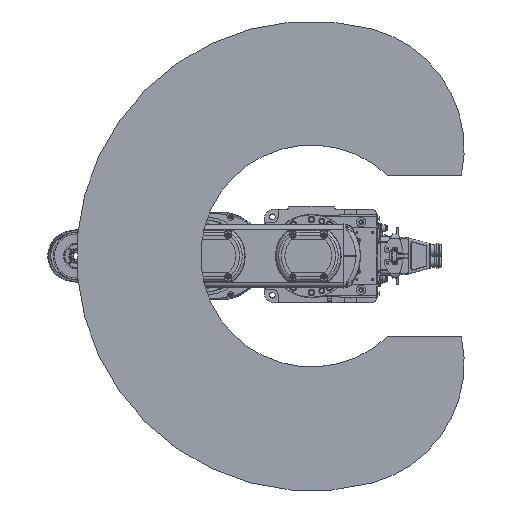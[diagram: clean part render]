
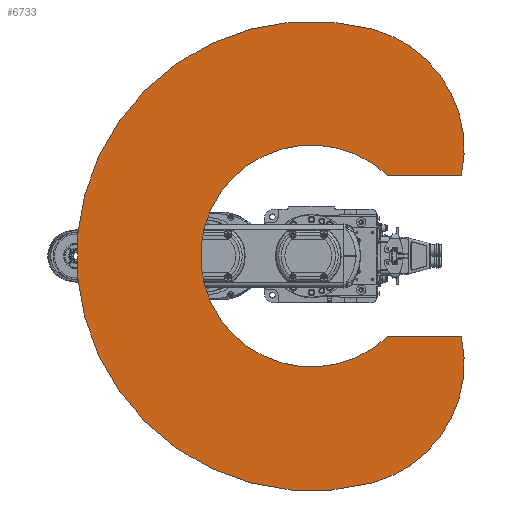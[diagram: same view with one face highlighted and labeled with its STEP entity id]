
A CAD part, front view. The second image highlights one B-rep face of the part: STEP entity #6733.
In plain terms, the highlighted planar face has unit normal (0, -1, 0).
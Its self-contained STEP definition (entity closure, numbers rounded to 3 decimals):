
#6733 = ADVANCED_FACE( '', ( #15720 ), #15721, .F. );
#15720 = FACE_OUTER_BOUND( '', #27588, .T. );
#15721 = PLANE( '', #27589 );
#27588 = EDGE_LOOP( '', ( #46963, #46964, #46965, #46966, #46967, #46968 ) );
#27589 = AXIS2_PLACEMENT_3D( '', #46969, #46970, #46971 );
#46963 = ORIENTED_EDGE( '', *, *, #67489, .T. );
#46964 = ORIENTED_EDGE( '', *, *, #67490, .F. );
#46965 = ORIENTED_EDGE( '', *, *, #63581, .F. );
#46966 = ORIENTED_EDGE( '', *, *, #65363, .F. );
#46967 = ORIENTED_EDGE( '', *, *, #67491, .T. );
#46968 = ORIENTED_EDGE( '', *, *, #67492, .F. );
#46969 = CARTESIAN_POINT( '', ( 102.614, 0., 27.495 ) );
#46970 = DIRECTION( '', ( 0., 1., 0. ) );
#46971 = DIRECTION( '', ( 0., 0., 1. ) );
#63581 = EDGE_CURVE( '', #75745, #75746, #75747, .T. );
#65363 = EDGE_CURVE( '', #78581, #75745, #78583, .T. );
#67489 = EDGE_CURVE( '', #81698, #81699, #81700, .T. );
#67490 = EDGE_CURVE( '', #75746, #81699, #81701, .T. );
#67491 = EDGE_CURVE( '', #78581, #81702, #81703, .T. );
#67492 = EDGE_CURVE( '', #81698, #81702, #81704, .F. );
#75745 = VERTEX_POINT( '', #94199 );
#75746 = VERTEX_POINT( '', #94200 );
#75747 = CIRCLE( '', #94201, 450. );
#78581 = VERTEX_POINT( '', #98831 );
#78583 = CIRCLE( '', #98834, 237.533 );
#81698 = VERTEX_POINT( '', #104490 );
#81699 = VERTEX_POINT( '', #104491 );
#81700 = LINE( '', #104492, #104493 );
#81701 = CIRCLE( '', #104494, 237.533 );
#81702 = VERTEX_POINT( '', #104495 );
#81703 = LINE( '', #104496, #104497 );
#81704 = CIRCLE( '', #104498, 212.47 );
#94199 = CARTESIAN_POINT( '', ( 434.667, 0., 116.469 ) );
#94200 = CARTESIAN_POINT( '', ( -434.667, 0., 116.469 ) );
#94201 = AXIS2_PLACEMENT_3D( '', #114670, #114671, #114672 );
#98831 = CARTESIAN_POINT( '', ( 155., 0., 287.152 ) );
#98834 = AXIS2_PLACEMENT_3D( '', #116968, #116969, #116970 );
#104490 = CARTESIAN_POINT( '', ( -155., 0., 145.322 ) );
#104491 = CARTESIAN_POINT( '', ( -155., 0., 287.152 ) );
#104492 = CARTESIAN_POINT( '', ( -155., 0., 0. ) );
#104493 = VECTOR( '', #119448, 1000. );
#104494 = AXIS2_PLACEMENT_3D( '', #119449, #119450, #119451 );
#104495 = CARTESIAN_POINT( '', ( 155., 0., 145.322 ) );
#104496 = CARTESIAN_POINT( '', ( 155., 0., 305. ) );
#104497 = VECTOR( '', #119452, 1000. );
#104498 = AXIS2_PLACEMENT_3D( '', #119453, #119454, #119455 );
#114670 = CARTESIAN_POINT( '', ( 0., 0., 0. ) );
#114671 = DIRECTION( '', ( 0., 1., 0. ) );
#114672 = DIRECTION( '', ( 1., 0., 0. ) );
#116968 = CARTESIAN_POINT( '', ( 205.228, 0., 54.991 ) );
#116969 = DIRECTION( '', ( 0., 1., 0. ) );
#116970 = DIRECTION( '', ( 1., 0., 0. ) );
#119448 = DIRECTION( '', ( 0., 0., 1. ) );
#119449 = CARTESIAN_POINT( '', ( -205.228, 0., 54.991 ) );
#119450 = DIRECTION( '', ( 0., 1., 0. ) );
#119451 = DIRECTION( '', ( 1., 0., 0. ) );
#119452 = DIRECTION( '', ( 0., 0., -1. ) );
#119453 = CARTESIAN_POINT( '', ( 0., 0., 0. ) );
#119454 = DIRECTION( '', ( 0., 1., 0. ) );
#119455 = DIRECTION( '', ( 0., 0., 1. ) );
